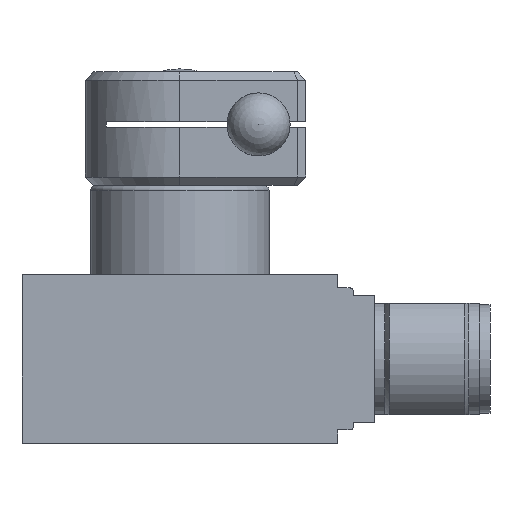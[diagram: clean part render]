
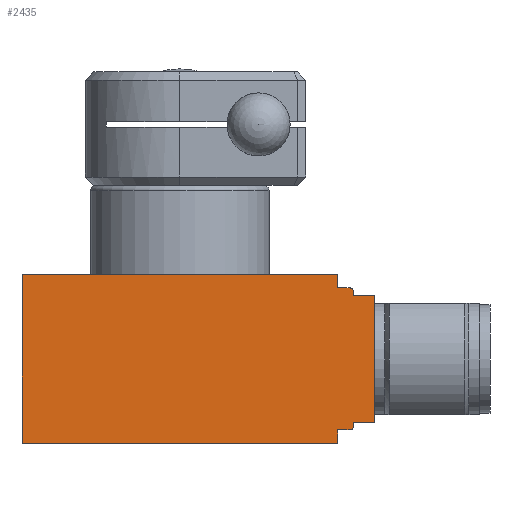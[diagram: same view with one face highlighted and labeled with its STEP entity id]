
A CAD part, front view. The second image highlights one B-rep face of the part: STEP entity #2435.
In plain terms, the highlighted planar face has unit normal (0, -1, 0) as drawn and (0, 0, -1) by its records, which use the part's own axes.
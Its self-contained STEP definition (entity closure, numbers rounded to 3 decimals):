
#42=LINE('',#3595,#272);
#50=LINE('',#3610,#280);
#82=LINE('',#3713,#312);
#98=LINE('',#3758,#328);
#114=LINE('',#3791,#344);
#115=LINE('',#3794,#345);
#116=LINE('',#3798,#346);
#117=LINE('',#3800,#347);
#118=LINE('',#3802,#348);
#119=LINE('',#3804,#349);
#120=LINE('',#3806,#350);
#121=LINE('',#3809,#351);
#272=VECTOR('',#2863,1.25);
#280=VECTOR('',#2871,1.25);
#312=VECTOR('',#2975,30.);
#328=VECTOR('',#3019,16.);
#344=VECTOR('',#3057,30.);
#345=VECTOR('',#3060,1.2);
#346=VECTOR('',#3063,0.45);
#347=VECTOR('',#3064,2.);
#348=VECTOR('',#3065,12.);
#349=VECTOR('',#3066,2.);
#350=VECTOR('',#3067,0.45);
#351=VECTOR('',#3070,1.2);
#532=PLANE('',#2631);
#675=FACE_OUTER_BOUND('',#835,.T.);
#835=EDGE_LOOP('',(#1848,#1849,#1850,#1851,#1852,#1853,#1854,#1855,#1856,
#1857,#1858,#1859,#1860,#1861));
#983=CIRCLE('',#2632,0.3);
#984=CIRCLE('',#2633,0.3);
#1059=VERTEX_POINT('',#3587);
#1062=VERTEX_POINT('',#3592);
#1063=VERTEX_POINT('',#3594);
#1070=VERTEX_POINT('',#3608);
#1105=VERTEX_POINT('',#3711);
#1120=VERTEX_POINT('',#3756);
#1127=VERTEX_POINT('',#3793);
#1128=VERTEX_POINT('',#3795);
#1129=VERTEX_POINT('',#3797);
#1130=VERTEX_POINT('',#3799);
#1131=VERTEX_POINT('',#3801);
#1132=VERTEX_POINT('',#3803);
#1133=VERTEX_POINT('',#3805);
#1134=VERTEX_POINT('',#3807);
#1296=EDGE_CURVE('',#1063,#1062,#42,.T.);
#1304=EDGE_CURVE('',#1059,#1070,#50,.T.);
#1353=EDGE_CURVE('',#1070,#1105,#82,.T.);
#1375=EDGE_CURVE('',#1120,#1105,#98,.T.);
#1392=EDGE_CURVE('',#1120,#1063,#114,.T.);
#1393=EDGE_CURVE('',#1062,#1127,#115,.T.);
#1394=EDGE_CURVE('',#1127,#1128,#983,.T.);
#1395=EDGE_CURVE('',#1128,#1129,#116,.T.);
#1396=EDGE_CURVE('',#1129,#1130,#117,.T.);
#1397=EDGE_CURVE('',#1131,#1130,#118,.T.);
#1398=EDGE_CURVE('',#1132,#1131,#119,.T.);
#1399=EDGE_CURVE('',#1133,#1132,#120,.T.);
#1400=EDGE_CURVE('',#1134,#1133,#984,.T.);
#1401=EDGE_CURVE('',#1059,#1134,#121,.T.);
#1848=ORIENTED_EDGE('',*,*,#1393,.T.);
#1849=ORIENTED_EDGE('',*,*,#1394,.T.);
#1850=ORIENTED_EDGE('',*,*,#1395,.T.);
#1851=ORIENTED_EDGE('',*,*,#1396,.T.);
#1852=ORIENTED_EDGE('',*,*,#1397,.F.);
#1853=ORIENTED_EDGE('',*,*,#1398,.F.);
#1854=ORIENTED_EDGE('',*,*,#1399,.F.);
#1855=ORIENTED_EDGE('',*,*,#1400,.F.);
#1856=ORIENTED_EDGE('',*,*,#1401,.F.);
#1857=ORIENTED_EDGE('',*,*,#1304,.T.);
#1858=ORIENTED_EDGE('',*,*,#1353,.T.);
#1859=ORIENTED_EDGE('',*,*,#1375,.F.);
#1860=ORIENTED_EDGE('',*,*,#1392,.T.);
#1861=ORIENTED_EDGE('',*,*,#1296,.T.);
#2435=ADVANCED_FACE('',(#675),#532,.F.);
#2631=AXIS2_PLACEMENT_3D('',#3792,#3058,#3059);
#2632=AXIS2_PLACEMENT_3D('',#3796,#3061,#3062);
#2633=AXIS2_PLACEMENT_3D('',#3808,#3068,#3069);
#2863=DIRECTION('',(0.,-1.,0.));
#2871=DIRECTION('',(0.,-1.,0.));
#2975=DIRECTION('',(-1.,0.,0.));
#3019=DIRECTION('',(0.,-1.,0.));
#3057=DIRECTION('',(1.,0.,0.));
#3058=DIRECTION('center_axis',(0.,0.,1.));
#3059=DIRECTION('ref_axis',(1.,0.,0.));
#3060=DIRECTION('',(1.,0.,0.));
#3061=DIRECTION('center_axis',(0.,0.,-1.));
#3062=DIRECTION('ref_axis',(0.707,0.707,0.));
#3063=DIRECTION('',(0.,-1.,0.));
#3064=DIRECTION('',(1.,0.,0.));
#3065=DIRECTION('',(0.,1.,0.));
#3066=DIRECTION('',(1.,0.,0.));
#3067=DIRECTION('',(0.,1.,0.));
#3068=DIRECTION('center_axis',(0.,0.,1.));
#3069=DIRECTION('ref_axis',(0.707,-0.707,0.));
#3070=DIRECTION('',(1.,0.,0.));
#3587=CARTESIAN_POINT('',(15.,-14.75,-43.));
#3592=CARTESIAN_POINT('',(15.,-1.25,-43.));
#3594=CARTESIAN_POINT('',(15.,0.,-43.));
#3595=CARTESIAN_POINT('',(15.,0.,-43.));
#3608=CARTESIAN_POINT('',(15.,-16.,-43.));
#3610=CARTESIAN_POINT('',(15.,-14.75,-43.));
#3711=CARTESIAN_POINT('',(-15.,-16.,-43.));
#3713=CARTESIAN_POINT('',(15.,-16.,-43.));
#3756=CARTESIAN_POINT('',(-15.,0.,-43.));
#3758=CARTESIAN_POINT('',(-15.,0.,-43.));
#3791=CARTESIAN_POINT('',(-15.,0.,-43.));
#3792=CARTESIAN_POINT('Origin',(1.75,-16.,-43.));
#3793=CARTESIAN_POINT('',(16.2,-1.25,-43.));
#3794=CARTESIAN_POINT('',(15.,-1.25,-43.));
#3795=CARTESIAN_POINT('',(16.5,-1.55,-43.));
#3796=CARTESIAN_POINT('Origin',(16.2,-1.55,-43.));
#3797=CARTESIAN_POINT('',(16.5,-2.,-43.));
#3798=CARTESIAN_POINT('',(16.5,-1.55,-43.));
#3799=CARTESIAN_POINT('',(18.5,-2.,-43.));
#3800=CARTESIAN_POINT('',(16.5,-2.,-43.));
#3801=CARTESIAN_POINT('',(18.5,-14.,-43.));
#3802=CARTESIAN_POINT('',(18.5,-14.,-43.));
#3803=CARTESIAN_POINT('',(16.5,-14.,-43.));
#3804=CARTESIAN_POINT('',(16.5,-14.,-43.));
#3805=CARTESIAN_POINT('',(16.5,-14.45,-43.));
#3806=CARTESIAN_POINT('',(16.5,-14.45,-43.));
#3807=CARTESIAN_POINT('',(16.2,-14.75,-43.));
#3808=CARTESIAN_POINT('Origin',(16.2,-14.45,-43.));
#3809=CARTESIAN_POINT('',(15.,-14.75,-43.));
